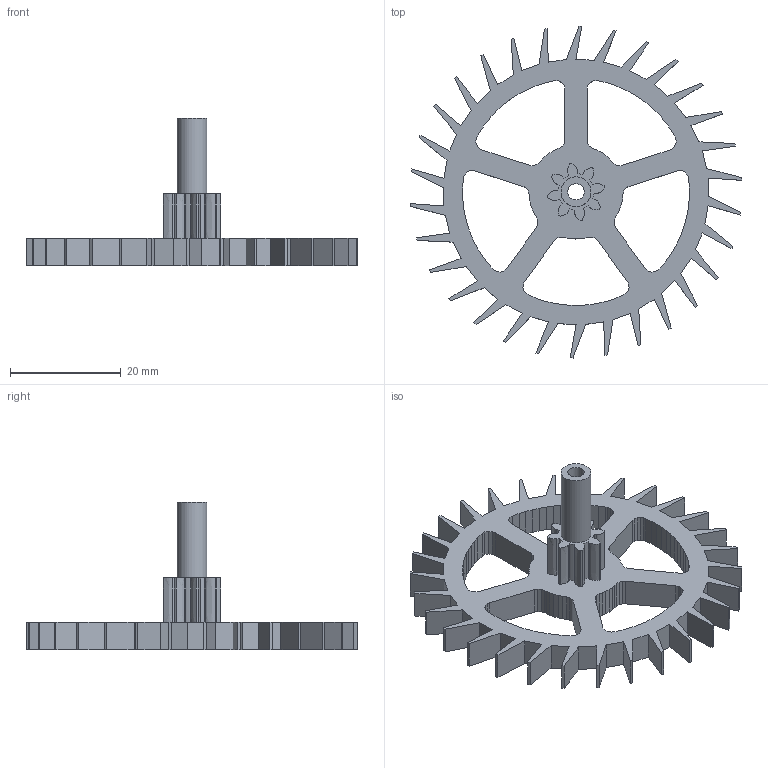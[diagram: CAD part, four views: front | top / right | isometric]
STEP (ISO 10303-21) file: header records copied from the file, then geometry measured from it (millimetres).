
FILE_DESCRIPTION(('Open CASCADE Model'),'2;1');
FILE_NAME('Open CASCADE Shape Model','2026-10-05T13:03:07',('Author'),( 'Open CASCADE'),'Open CASCADE STEP processor 7.9','Open CASCADE 7.9' ,'Unknown');
FILE_SCHEMA(('AUTOMOTIVE_DESIGN { 1 0 10303 214 1 1 1 1 }'));
Length unit declared in the file: millimetre
Products named in the file (1): Open CASCADE STEP translator 7.9 15
Bounding box: 59.85 x 59.99 x 26.7 mm (x, y, z)
Volume: 6409.8 mm3; surface area: 6876.8 mm2
Topology: 1 solids, 1 shells, 355 faces, 1053 edges, 702 vertices
Faces by surface type: plane 321, cylinder 18, extrusion 16
Full cylindrical faces by diameter (mm): 2.95 x1, 5.4 x1
Entity records: 25818 total; most frequent: CARTESIAN_POINT 4777, DIRECTION 3827, VECTOR 3039, LINE 3023, ORIENTED_EDGE 2106, PCURVE 2106, DEFINITIONAL_REPRESENTATION 2106, EDGE_CURVE 1053
